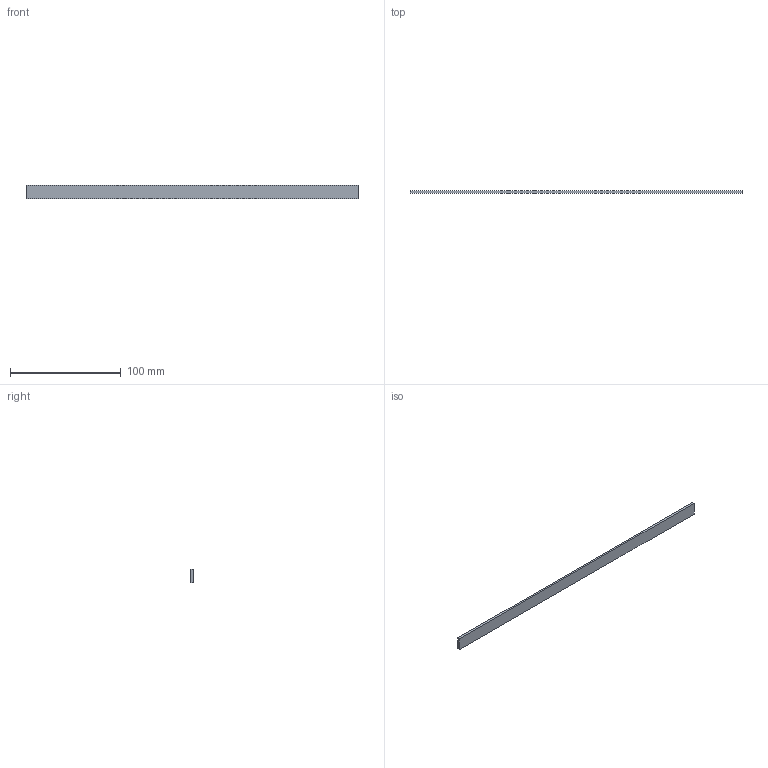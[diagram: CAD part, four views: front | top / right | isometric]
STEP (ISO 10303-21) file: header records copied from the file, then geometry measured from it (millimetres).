
FILE_DESCRIPTION(('Open CASCADE Model'),'2;1');
FILE_NAME('Open CASCADE Shape Model','2026-10-16T19:20:09',('Author'),( 'Open CASCADE'),'Open CASCADE STEP processor 7.8','Open CASCADE 7.8' ,'Unknown');
FILE_SCHEMA(('AUTOMOTIVE_DESIGN { 1 0 10303 214 1 1 1 1 }'));
Length unit declared in the file: millimetre
Products named in the file (1): Open CASCADE STEP translator 7.8 30
Bounding box: 300 x 2 x 12 mm (x, y, z)
Volume: 7200 mm3; surface area: 8448 mm2
Topology: 1 solids, 1 shells, 6 faces, 12 edges, 8 vertices
Faces by surface type: plane 6
Entity records: 322 total; most frequent: CARTESIAN_POINT 51, DIRECTION 50, LINE 36, VECTOR 36, ORIENTED_EDGE 24, PCURVE 24, DEFINITIONAL_REPRESENTATION 24, EDGE_CURVE 12
